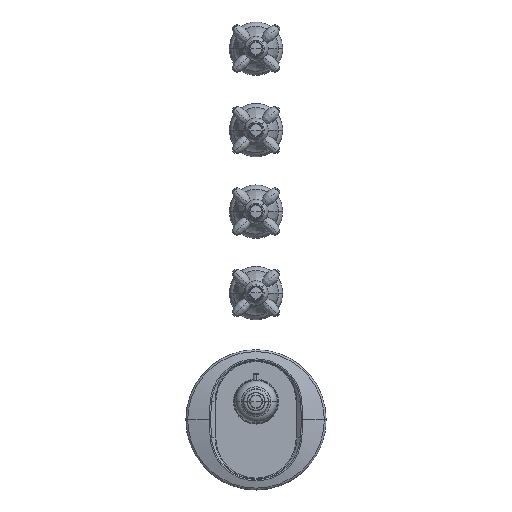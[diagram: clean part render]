
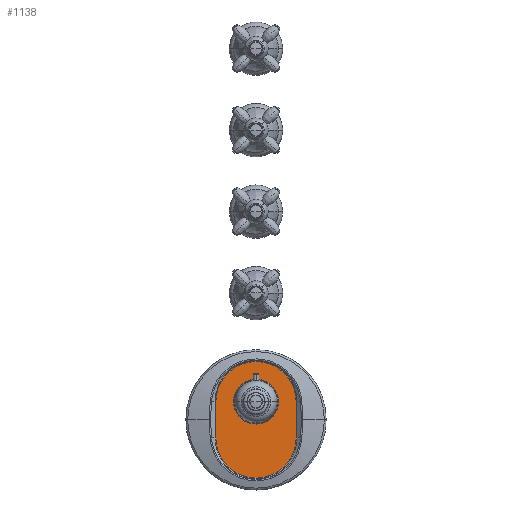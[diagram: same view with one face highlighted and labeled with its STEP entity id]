
A CAD part, top view. The second image highlights one B-rep face of the part: STEP entity #1138.
In plain terms, the highlighted planar face has unit normal (0, 0, 1).
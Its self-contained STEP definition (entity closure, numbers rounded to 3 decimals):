
#429=DIRECTION('',(0.,-1.,0.));
#430=VECTOR('',#429,40.);
#431=CARTESIAN_POINT('',(-44.379,0.,18.5));
#432=LINE('',#431,#430);
#433=CARTESIAN_POINT('',(0.,0.,18.5));
#434=DIRECTION('',(0.,0.,1.));
#435=DIRECTION('',(1.,0.,0.));
#436=AXIS2_PLACEMENT_3D('',#433,#434,#435);
#438=DIRECTION('',(0.,1.,0.));
#439=VECTOR('',#438,40.);
#440=CARTESIAN_POINT('',(44.379,-40.,18.5));
#441=LINE('',#440,#439);
#442=CARTESIAN_POINT('',(0.,-40.,18.5));
#443=DIRECTION('',(0.,0.,1.));
#444=DIRECTION('',(-1.,0.,0.));
#445=AXIS2_PLACEMENT_3D('',#442,#443,#444);
#447=CARTESIAN_POINT('',(0.,0.,18.5));
#448=DIRECTION('',(0.,0.,1.));
#449=DIRECTION('',(-1.,0.,0.));
#450=AXIS2_PLACEMENT_3D('',#447,#448,#449);
#457=CARTESIAN_POINT('',(0.,0.,18.5));
#458=DIRECTION('',(0.,0.,1.));
#459=DIRECTION('',(1.,0.,0.));
#460=AXIS2_PLACEMENT_3D('',#457,#458,#459);
#583=CARTESIAN_POINT('',(-44.379,0.,18.5));
#584=CARTESIAN_POINT('',(-44.379,-40.,18.5));
#585=VERTEX_POINT('',#583);
#586=VERTEX_POINT('',#584);
#589=CARTESIAN_POINT('',(44.379,-40.,18.5));
#590=VERTEX_POINT('',#589);
#593=CARTESIAN_POINT('',(44.379,0.,18.5));
#594=VERTEX_POINT('',#593);
#609=CARTESIAN_POINT('',(-23.9,0.,18.5));
#610=CARTESIAN_POINT('',(23.9,0.,18.5));
#611=VERTEX_POINT('',#609);
#612=VERTEX_POINT('',#610);
#1121=CARTESIAN_POINT('',(-45.,0.,18.5));
#1122=DIRECTION('',(0.,0.,-1.));
#1123=DIRECTION('',(1.,0.,0.));
#1124=AXIS2_PLACEMENT_3D('',#1121,#1122,#1123);
#1125=PLANE('',#1124);
#1126=ORIENTED_EDGE('',*,*,#1075,.F.);
#1127=ORIENTED_EDGE('',*,*,#1089,.F.);
#1128=ORIENTED_EDGE('',*,*,#1103,.F.);
#1129=ORIENTED_EDGE('',*,*,#1060,.F.);
#1130=EDGE_LOOP('',(#1126,#1127,#1128,#1129));
#1131=FACE_OUTER_BOUND('',#1130,.F.);
#1133=ORIENTED_EDGE('',*,*,#1132,.T.);
#1135=ORIENTED_EDGE('',*,*,#1134,.T.);
#1136=EDGE_LOOP('',(#1133,#1135));
#1137=FACE_BOUND('',#1136,.F.);
#1138=ADVANCED_FACE('',(#1131,#1137),#1125,.F.);
#437=CIRCLE('',#436,44.379);
#446=CIRCLE('',#445,44.379);
#451=CIRCLE('',#450,23.9);
#461=CIRCLE('',#460,23.9);
#1060=EDGE_CURVE('',#586,#590,#446,.T.);
#1075=EDGE_CURVE('',#585,#586,#432,.T.);
#1089=EDGE_CURVE('',#594,#585,#437,.T.);
#1103=EDGE_CURVE('',#590,#594,#441,.T.);
#1132=EDGE_CURVE('',#611,#612,#451,.T.);
#1134=EDGE_CURVE('',#612,#611,#461,.T.);
